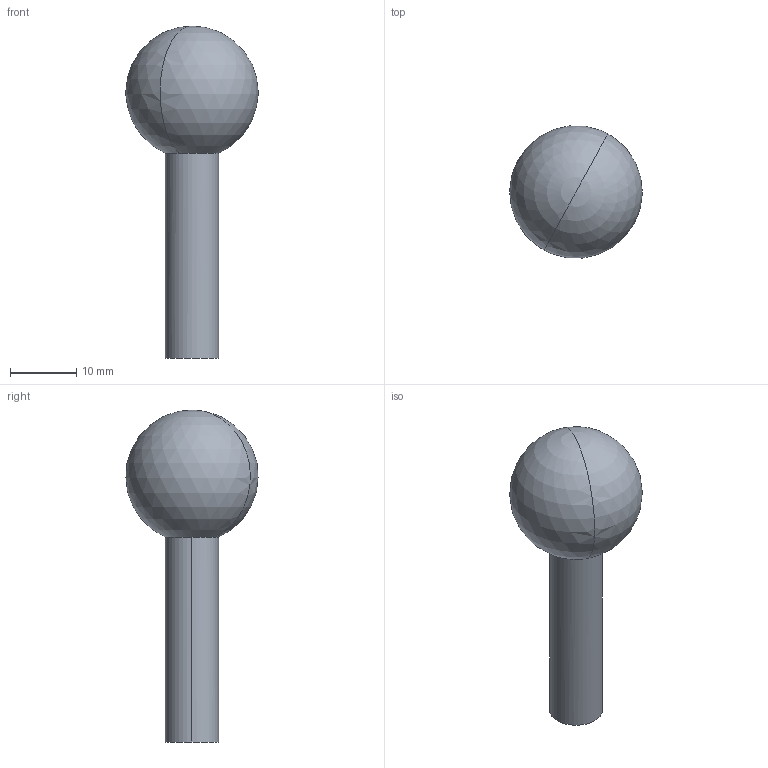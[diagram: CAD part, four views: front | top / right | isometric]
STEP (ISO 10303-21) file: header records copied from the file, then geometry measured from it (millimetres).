
FILE_DESCRIPTION(('CATIA V5 STEP Exchange'),'2;1');
FILE_NAME('C:\Users\d.catalano\Desktop\CATALOGO CAD\S20 GF\S20GF.stp','2021-11-11T14:19:23+00:00',('none'),('none'),'CATIA Version 5 Release 19 SP 3 (IN-10)','CATIA V5 STEP AP203','none');
FILE_SCHEMA(('CONFIG_CONTROL_DESIGN'));
Length unit declared in the file: millimetre
Products named in the file (1): S20GF
Bounding box: 19.99 x 19.89 x 50 mm (x, y, z)
Volume: 5717.4 mm3; surface area: 2029.4 mm2
Topology: 1 solids, 1 shells, 5 faces, 12 edges, 7 vertices
Faces by surface type: cylinder 2, sphere 2, plane 1
Entity records: 164 total; most frequent: CARTESIAN_POINT 21, ORIENTED_EDGE 20, DIRECTION 16, AXIS2_PLACEMENT_3D 12, EDGE_CURVE 10, CIRCLE 8, VERTEX_POINT 7, ADVANCED_FACE 5
